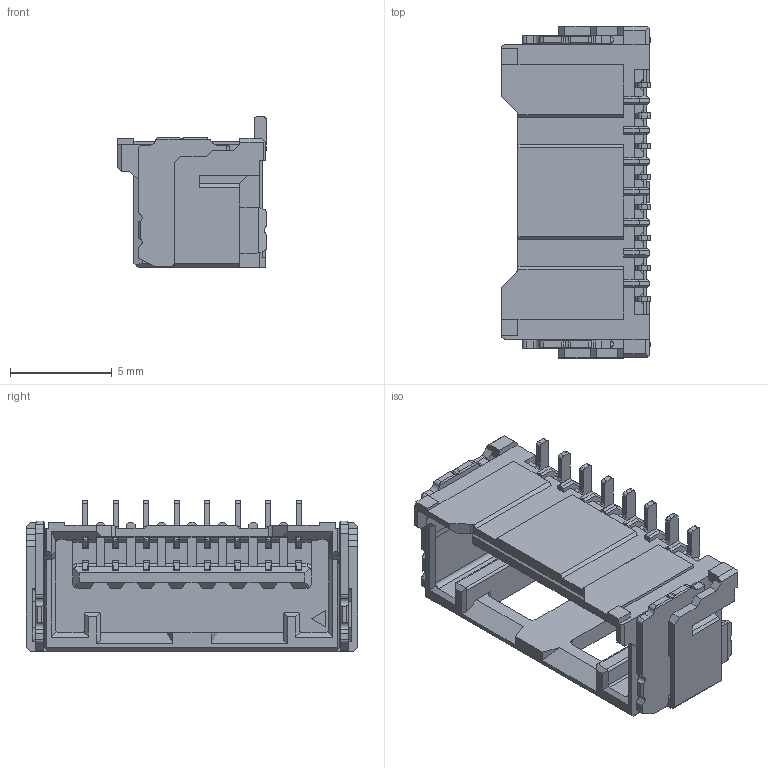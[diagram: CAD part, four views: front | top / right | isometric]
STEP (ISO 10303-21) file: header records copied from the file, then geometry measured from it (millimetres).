
FILE_DESCRIPTION (( 'STEP AP203' ), '1' );
FILE_NAME ('GT-A1515WVS-108SMT01.STEP', '2024-09-25T10:42:03', ( '' ), ( '' ), 'SwSTEP 2.0', 'SolidWorks 2020', '' );
FILE_SCHEMA (( 'CONFIG_CONTROL_DESIGN' ));
Length unit declared in the file: millimetre
Products named in the file (1): GT-A1515WVS-108SMT01
Bounding box: 7.3 x 16.3 x 7.4 mm (x, y, z)
Volume: 289.5 mm3; surface area: 1049.6 mm2
Topology: 1 solids, 1 shells, 1656 faces, 4811 edges, 3162 vertices
Faces by surface type: plane 1229, cylinder 354, bspline 71, cone 2
Entity records: 57986 total; most frequent: CARTESIAN_POINT 14701, ORIENTED_EDGE 9622, DIRECTION 8119, EDGE_CURVE 4811, LINE 3795, VECTOR 3795, VERTEX_POINT 3162, AXIS2_PLACEMENT_3D 2162
